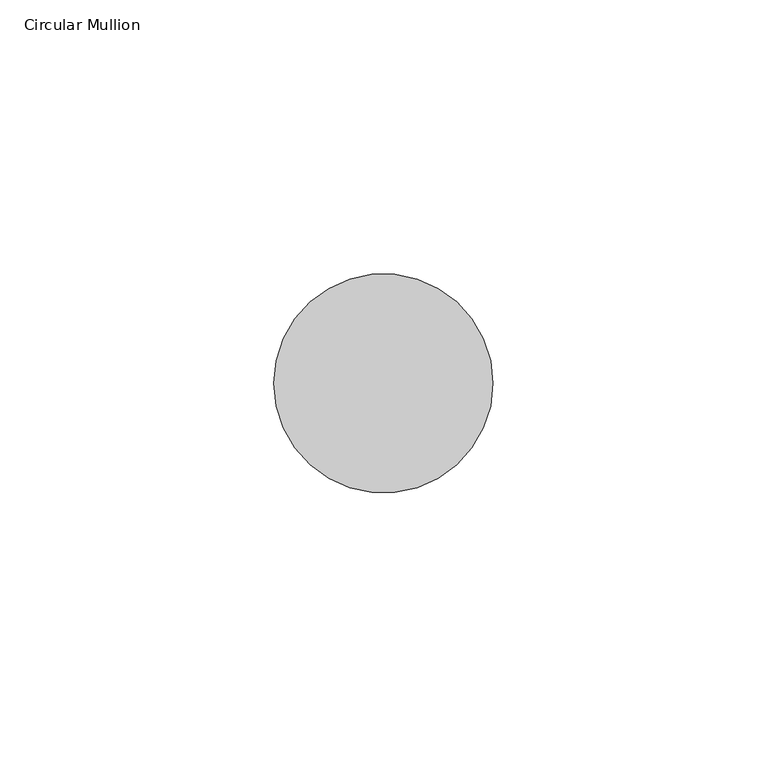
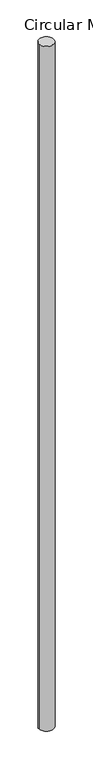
"""IFC4 building model written with IfcOpenShell, lengths in millimetres: member geometry, Circular Mullion : GRADIL 40mm."""

import ifcopenshell
import ifcopenshell.guid

model = None  # the IFC model being written
_history = None  # IfcOwnerHistory: only IFC2X3 demands one
_inside = {}  # id of a spatial element -> (the spatial element, [elements in it])
_under = {}  # id of a project, library or spatial element -> (it, [spatial elements below it])
_declared = {}  # id of a project -> (the project, [libraries it declares])
_typed = {}  # id of a type object -> (the type object, [elements of that type])
_made_of = {}  # id of a material, layer set ... -> (it, [elements and type objects made of it])


def new_model(schema):
    """Start an empty IFC model of exactly this schema.

    Asked for "IFC4X3", IfcOpenShell would pick the latest addendum, in which some entities
    have other attributes; the version numbers below select the first issue.
    IFC2X3 requires an IfcOwnerHistory on every rooted entity: one is made here for all.
    """
    global model, _history
    if schema == "IFC4X3":
        model = ifcopenshell.file(schema_version=(4, 3, 0, 0))
    else:
        model = ifcopenshell.file(schema=schema)
    _inside.clear()
    _under.clear()
    _declared.clear()
    _typed.clear()
    _made_of.clear()
    _history = None
    if model.schema == "IFC2X3":
        org = make("IfcOrganization", Name="unknown")
        user = make(
            "IfcPersonAndOrganization",
            ThePerson=make("IfcPerson", FamilyName="unknown"),
            TheOrganization=org,
        )
        app = make(
            "IfcApplication",
            ApplicationDeveloper=org,
            Version="unknown",
            ApplicationFullName="unknown",
            ApplicationIdentifier="unknown",
        )
        _history = make(
            "IfcOwnerHistory",
            OwningUser=user,
            OwningApplication=app,
            ChangeAction="ADDED",
            CreationDate=0,
        )
    return model


def make(cls, **values):
    """One entity of the class cls with the attributes given. An attribute that is None is left unset."""
    return model.create_entity(
        cls, **{name: value for name, value in values.items() if value is not None}
    )


def rooted(cls, **values):
    """An entity with a GlobalId (a new one), such as an element, a storey or a relation."""
    return make(cls, GlobalId=ifcopenshell.guid.new(), OwnerHistory=_history, **values)


def si_unit(unit_type, name, prefix=None):
    """IfcSIUnit, for example si_unit("LENGTHUNIT", "METRE", prefix="MILLI")."""
    return make("IfcSIUnit", UnitType=unit_type, Prefix=prefix, Name=name)


def assignment(units):
    """IfcUnitAssignment: the units of a project."""
    return None if units is None else make("IfcUnitAssignment", Units=units)


def point(xyz):
    """IfcCartesianPoint."""
    return None if xyz is None else make("IfcCartesianPoint", Coordinates=xyz)


def direction(xyz):
    """IfcDirection."""
    return None if xyz is None else make("IfcDirection", DirectionRatios=xyz)


def frame(location, z_axis=None, x_axis=None):
    """IfcAxis2Placement3D, a coordinate frame: its origin and axes. An axis left out is left unset."""
    return make(
        "IfcAxis2Placement3D",
        Location=point(location),
        Axis=direction(z_axis),
        RefDirection=direction(x_axis),
    )


def frame_2d(location, x_axis=None):
    """IfcAxis2Placement2D, a coordinate frame in the plane: its origin and x axis."""
    return make(
        "IfcAxis2Placement2D", Location=point(location), RefDirection=direction(x_axis)
    )


def origin():
    """The frame at (0, 0, 0) with its axes left unset."""
    return frame((0.0, 0.0, 0.0))


def origin_2d():
    """The frame at (0, 0) in the plane with its x axis left unset."""
    return frame_2d((0.0, 0.0))


def place(relative_to, where):
    """IfcLocalPlacement: puts the frame where relative to a parent placement (None: the world)."""
    return make(
        "IfcLocalPlacement", PlacementRelTo=relative_to, RelativePlacement=where
    )


def context(
    kind, dimensions, precision=None, world=None, true_north=None, identifier=None
):
    """IfcGeometricRepresentationContext, for example the 3D "Model" context."""
    return make(
        "IfcGeometricRepresentationContext",
        ContextIdentifier=identifier,
        ContextType=kind,
        CoordinateSpaceDimension=dimensions,
        Precision=precision,
        WorldCoordinateSystem=world,
        TrueNorth=true_north,
    )


def project(units=None, contexts=None):
    """IfcProject with its units and contexts."""
    return rooted(
        "IfcProject",
        Name="project",
        RepresentationContexts=contexts,
        UnitsInContext=assignment(units),
    )


def spatial(cls, under=None, at=None, **own):
    """A site, building, storey or space (cls), placed at a placement, below another one or the project."""
    s = rooted(cls, ObjectPlacement=at, **own)
    if under is not None:
        _under.setdefault(under.id(), (under, []))[1].append(s)
    return s


def circle_curve(where, radius):
    """IfcCircle in the frame where."""
    return make("IfcCircle", Position=where, Radius=radius)


def trimmed(basis, trim1, trim2, sense, master):
    """IfcTrimmedCurve: the piece of a basis curve between two trims."""
    return make(
        "IfcTrimmedCurve",
        BasisCurve=basis,
        Trim1=trim1,
        Trim2=trim2,
        SenseAgreement=sense,
        MasterRepresentation=master,
    )


def segment(curve, same_sense, transition):
    """IfcCompositeCurveSegment."""
    return make(
        "IfcCompositeCurveSegment",
        Transition=transition,
        SameSense=same_sense,
        ParentCurve=curve,
    )


def composite_curve(segments, self_intersect=None):
    """IfcCompositeCurve: segments joined end to end."""
    return make("IfcCompositeCurve", Segments=segments, SelfIntersect=self_intersect)


def outline(outer, holes=None, kind="AREA"):
    """IfcArbitraryClosedProfileDef: a profile drawn as a closed curve; with holes, ...WithVoids."""
    if holes is None:
        return make("IfcArbitraryClosedProfileDef", ProfileType=kind, OuterCurve=outer)
    return make(
        "IfcArbitraryProfileDefWithVoids",
        ProfileType=kind,
        OuterCurve=outer,
        InnerCurves=holes,
    )


def extrude(swept, where, along, depth):
    """IfcExtrudedAreaSolid: the profile swept, set in the frame where, extruded along a direction by depth."""
    return make(
        "IfcExtrudedAreaSolid",
        SweptArea=swept,
        Position=where,
        ExtrudedDirection=direction(along),
        Depth=depth,
    )


def shape(context_of_items, identifier, shape_type, items):
    """IfcShapeRepresentation: the items that make up one representation, for example the "Body"."""
    return make(
        "IfcShapeRepresentation",
        ContextOfItems=context_of_items,
        RepresentationIdentifier=identifier,
        RepresentationType=shape_type,
        Items=items,
    )


def source(mapping_origin, context_of_items, identifier, shape_type, items):
    """IfcRepresentationMap: a shape defined once, which mapped items show again and again."""
    return make(
        "IfcRepresentationMap",
        MappingOrigin=mapping_origin,
        MappedRepresentation=shape(context_of_items, identifier, shape_type, items),
    )


def transform(
    local_origin,
    x_axis=None,
    y_axis=None,
    z_axis=None,
    scale=None,
    scale2=None,
    scale3=None,
    uniform=True,
):
    """IfcCartesianTransformationOperator3D, or its non-uniform kind. x_axis, y_axis, z_axis: its Axis1, 2, 3."""
    if uniform:
        return make(
            "IfcCartesianTransformationOperator3D",
            Axis1=direction(x_axis),
            Axis2=direction(y_axis),
            LocalOrigin=point(local_origin),
            Scale=scale,
            Axis3=direction(z_axis),
        )
    return make(
        "IfcCartesianTransformationOperator3DnonUniform",
        Axis1=direction(x_axis),
        Axis2=direction(y_axis),
        LocalOrigin=point(local_origin),
        Scale=scale,
        Axis3=direction(z_axis),
        Scale2=scale2,
        Scale3=scale3,
    )


def mapped(mapping_source, mapping_target):
    """IfcMappedItem: shows the shape of a source again, moved by a transform."""
    return make(
        "IfcMappedItem", MappingSource=mapping_source, MappingTarget=mapping_target
    )


def made_of(thing, what):
    """Note that an element or type object is made of a material, layer set ...; save() writes the relation."""
    if what is not None:
        _made_of.setdefault(what.id(), (what, []))[1].append(thing)
    return thing


def element(
    cls,
    number,
    at=None,
    inside=None,
    cuts=None,
    type_object=None,
    material=None,
    context=None,
    identifier="Body",
    shape_type=None,
    held_by="IfcProductDefinitionShape",
    body=None,
    shapes=None,
    **own,
):
    """One element of the class cls, such as IfcWall. Its Tag is "e" and its number.

    at: its placement. inside: the storey or other place that contains it. cuts: it is an
    opening in that element (IfcRelVoidsElement). A single representation is given by context,
    identifier, shape_type and body (its items); several are given by shapes. held_by: the class
    of the entity that holds the representations. save() writes the other relations.
    """
    e = rooted(cls, Tag="e%d" % number, ObjectPlacement=at, **own)
    if body is not None:
        shapes = [shape(context, identifier, shape_type, body)]
    if shapes is not None:
        e.Representation = make(held_by, Representations=shapes)
    if inside is not None:
        _inside.setdefault(inside.id(), (inside, []))[1].append(e)
    if cuts is not None:
        rooted(
            "IfcRelVoidsElement", RelatingBuildingElement=cuts, RelatedOpeningElement=e
        )
    if type_object is not None:
        _typed.setdefault(type_object.id(), (type_object, []))[1].append(e)
    return made_of(e, material)


def aggregate(whole, parts):
    """IfcRelAggregates: a whole, such as a stair, and the parts it consists of."""
    return rooted("IfcRelAggregates", RelatingObject=whole, RelatedObjects=parts)


def save(model, path):
    """Write the relations noted so far, then the file.

    IfcRelAggregates (storeys below a building ...), IfcRelContainedInSpatialStructure (elements
    in a storey), IfcRelDefinesByType, IfcRelAssociatesMaterial and IfcRelDeclares: one each for
    every whole, place, type object, material and project.
    """
    for whole, parts in _under.values():
        aggregate(whole, parts)
    for where, things in _inside.values():
        rooted(
            "IfcRelContainedInSpatialStructure",
            RelatedElements=things,
            RelatingStructure=where,
        )
    for kind, things in _typed.values():
        rooted("IfcRelDefinesByType", RelatedObjects=things, RelatingType=kind)
    for what, things in _made_of.values():
        rooted("IfcRelAssociatesMaterial", RelatedObjects=things, RelatingMaterial=what)
    for by, libraries in _declared.values():
        rooted("IfcRelDeclares", RelatingContext=by, RelatedDefinitions=libraries)
    model.write(path)


def circular_mullion_6de284a6(model_context):
    return source(origin(), model_context, "Body", "SweptSolid", [
        extrude(outline(composite_curve([segment(trimmed(circle_curve(origin_2d(), 20.0), [point((20.0, 0.0))], [point((-20.0, 0.0))], False, "CARTESIAN"), True, "CONTINUOUS"), segment(trimmed(circle_curve(origin_2d(), 20.0), [point((-20.0, 0.0))], [point((20.0, 0.0))], False, "CARTESIAN"), True, "CONTINUOUS")], self_intersect=False)), frame((0.0, 0.0, -1959.6937652), z_axis=(0.0, 0.0, 1.0), x_axis=(1.0, 0.0, 0.0)), (0.0, 0.0, 1.0), 1959.6937652),
    ])


if __name__ == "__main__":
    model = new_model("IFC4")
    model_context = context("Model", 3, world=origin())
    ifc_project = project(units=[si_unit("LENGTHUNIT", "METRE", prefix="MILLI")], contexts=[model_context])
    site = spatial("IfcSite", under=ifc_project)
    building = spatial("IfcBuilding", under=site)
    placement = place(None, origin())
    circular_mullion_shape = circular_mullion_6de284a6(model_context)
    element("IfcMember", 1, ObjectType="Circular Mullion : GRADIL 40mm", at=placement, inside=building, context=model_context, shape_type="MappedRepresentation", body=[
        mapped(circular_mullion_shape, transform((0.0, 0.0, 0.0), x_axis=(1.0, 0.0, 0.0), y_axis=(0.0, 1.0, 0.0), z_axis=(0.0, 0.0, 1.0))),
    ])
    save(model, "model.ifc")
